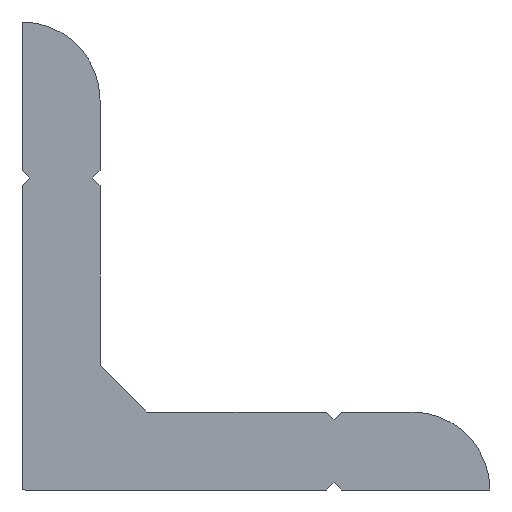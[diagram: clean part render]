
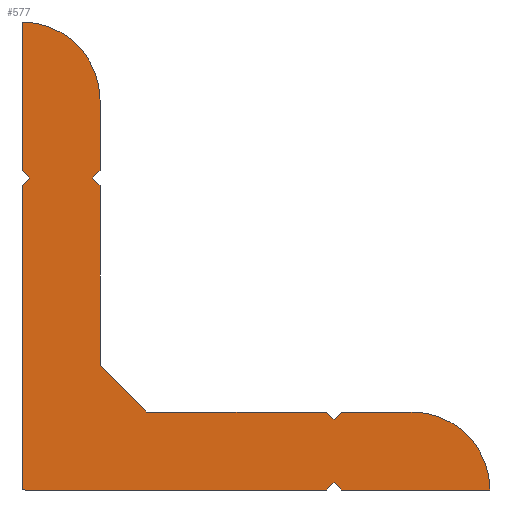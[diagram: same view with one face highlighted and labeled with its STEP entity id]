
A CAD part, front view. The second image highlights one B-rep face of the part: STEP entity #577.
In plain terms, the highlighted planar face has unit normal (0, -1, 0).
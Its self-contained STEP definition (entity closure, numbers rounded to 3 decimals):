
#27=CIRCLE('',#608,0.2);
#28=CIRCLE('',#609,5.);
#29=CIRCLE('',#610,5.);
#50=ORIENTED_EDGE('',*,*,#170,.F.);
#51=ORIENTED_EDGE('',*,*,#171,.T.);
#52=ORIENTED_EDGE('',*,*,#172,.F.);
#53=ORIENTED_EDGE('',*,*,#173,.T.);
#54=ORIENTED_EDGE('',*,*,#174,.T.);
#55=ORIENTED_EDGE('',*,*,#175,.F.);
#56=ORIENTED_EDGE('',*,*,#176,.T.);
#57=ORIENTED_EDGE('',*,*,#177,.F.);
#58=ORIENTED_EDGE('',*,*,#178,.T.);
#59=ORIENTED_EDGE('',*,*,#179,.T.);
#60=ORIENTED_EDGE('',*,*,#180,.F.);
#61=ORIENTED_EDGE('',*,*,#181,.T.);
#62=ORIENTED_EDGE('',*,*,#182,.F.);
#63=ORIENTED_EDGE('',*,*,#183,.T.);
#64=ORIENTED_EDGE('',*,*,#184,.T.);
#65=ORIENTED_EDGE('',*,*,#185,.F.);
#66=ORIENTED_EDGE('',*,*,#186,.T.);
#67=ORIENTED_EDGE('',*,*,#187,.F.);
#68=ORIENTED_EDGE('',*,*,#188,.T.);
#69=ORIENTED_EDGE('',*,*,#189,.T.);
#170=EDGE_CURVE('',#230,#231,#267,.T.);
#171=EDGE_CURVE('',#230,#232,#27,.F.);
#172=EDGE_CURVE('',#233,#232,#268,.T.);
#173=EDGE_CURVE('',#233,#234,#269,.T.);
#174=EDGE_CURVE('',#234,#235,#270,.T.);
#175=EDGE_CURVE('',#236,#235,#271,.T.);
#176=EDGE_CURVE('',#236,#237,#28,.F.);
#177=EDGE_CURVE('',#238,#237,#272,.T.);
#178=EDGE_CURVE('',#238,#239,#273,.T.);
#179=EDGE_CURVE('',#239,#240,#274,.T.);
#180=EDGE_CURVE('',#241,#240,#275,.T.);
#181=EDGE_CURVE('',#241,#242,#276,.F.);
#182=EDGE_CURVE('',#243,#242,#277,.T.);
#183=EDGE_CURVE('',#243,#244,#278,.T.);
#184=EDGE_CURVE('',#244,#245,#279,.T.);
#185=EDGE_CURVE('',#246,#245,#280,.T.);
#186=EDGE_CURVE('',#246,#247,#29,.F.);
#187=EDGE_CURVE('',#248,#247,#281,.T.);
#188=EDGE_CURVE('',#248,#249,#282,.T.);
#189=EDGE_CURVE('',#249,#231,#283,.T.);
#230=VERTEX_POINT('',#787);
#231=VERTEX_POINT('',#788);
#232=VERTEX_POINT('',#790);
#233=VERTEX_POINT('',#792);
#234=VERTEX_POINT('',#794);
#235=VERTEX_POINT('',#796);
#236=VERTEX_POINT('',#798);
#237=VERTEX_POINT('',#800);
#238=VERTEX_POINT('',#802);
#239=VERTEX_POINT('',#804);
#240=VERTEX_POINT('',#806);
#241=VERTEX_POINT('',#808);
#242=VERTEX_POINT('',#810);
#243=VERTEX_POINT('',#812);
#244=VERTEX_POINT('',#814);
#245=VERTEX_POINT('',#816);
#246=VERTEX_POINT('',#818);
#247=VERTEX_POINT('',#820);
#248=VERTEX_POINT('',#822);
#249=VERTEX_POINT('',#824);
#267=LINE('',#786,#321);
#268=LINE('',#791,#322);
#269=LINE('',#793,#323);
#270=LINE('',#795,#324);
#271=LINE('',#797,#325);
#272=LINE('',#801,#326);
#273=LINE('',#803,#327);
#274=LINE('',#805,#328);
#275=LINE('',#807,#329);
#276=LINE('',#809,#330);
#277=LINE('',#811,#331);
#278=LINE('',#813,#332);
#279=LINE('',#815,#333);
#280=LINE('',#817,#334);
#281=LINE('',#821,#335);
#282=LINE('',#823,#336);
#283=LINE('',#825,#337);
#321=VECTOR('',#660,1000.);
#322=VECTOR('',#663,1000.);
#323=VECTOR('',#664,1000.);
#324=VECTOR('',#665,1000.);
#325=VECTOR('',#666,1000.);
#326=VECTOR('',#669,1000.);
#327=VECTOR('',#670,1000.);
#328=VECTOR('',#671,1000.);
#329=VECTOR('',#672,1000.);
#330=VECTOR('',#673,1000.);
#331=VECTOR('',#674,1000.);
#332=VECTOR('',#675,1000.);
#333=VECTOR('',#676,1000.);
#334=VECTOR('',#677,1000.);
#335=VECTOR('',#680,1000.);
#336=VECTOR('',#681,1000.);
#337=VECTOR('',#682,1000.);
#359=EDGE_LOOP('',(#50,#51,#52,#53,#54,#55,#56,#57,#58,#59,#60,#61,#62,
#63,#64,#65,#66,#67,#68,#69));
#381=FACE_BOUND('',#359,.T.);
#403=PLANE('',#607);
#577=ADVANCED_FACE('',(#381),#403,.F.);
#607=AXIS2_PLACEMENT_3D('',#785,#658,#659);
#608=AXIS2_PLACEMENT_3D('',#789,#661,#662);
#609=AXIS2_PLACEMENT_3D('',#799,#667,#668);
#610=AXIS2_PLACEMENT_3D('',#819,#678,#679);
#658=DIRECTION('',(0.,1.,0.));
#659=DIRECTION('',(0.,0.,1.));
#660=DIRECTION('',(0.,0.,1.));
#661=DIRECTION('',(0.,1.,0.));
#662=DIRECTION('',(0.,0.,1.));
#663=DIRECTION('',(-1.,0.,0.));
#664=DIRECTION('',(0.707,0.,0.707));
#665=DIRECTION('',(0.707,0.,-0.707));
#666=DIRECTION('',(-1.,0.,0.));
#667=DIRECTION('',(0.,1.,0.));
#668=DIRECTION('',(0.,0.,1.));
#669=DIRECTION('',(1.,0.,0.));
#670=DIRECTION('',(-0.707,0.,-0.707));
#671=DIRECTION('',(-0.707,0.,0.707));
#672=DIRECTION('',(1.,0.,0.));
#673=DIRECTION('',(0.707,0.,-0.707));
#674=DIRECTION('',(0.,0.,-1.));
#675=DIRECTION('',(-0.707,0.,0.707));
#676=DIRECTION('',(0.707,0.,0.707));
#677=DIRECTION('',(0.,0.,-1.));
#678=DIRECTION('',(0.,1.,0.));
#679=DIRECTION('',(0.,0.,1.));
#680=DIRECTION('',(0.,0.,1.));
#681=DIRECTION('',(0.707,0.,-0.707));
#682=DIRECTION('',(-0.707,0.,-0.707));
#785=CARTESIAN_POINT('',(0.,0.,0.));
#786=CARTESIAN_POINT('',(0.,0.,0.));
#787=CARTESIAN_POINT('',(0.,0.,0.2));
#788=CARTESIAN_POINT('',(0.,0.,19.5));
#789=CARTESIAN_POINT('',(0.2,0.,0.2));
#790=CARTESIAN_POINT('',(0.2,0.,0.));
#791=CARTESIAN_POINT('',(30.,0.,0.));
#792=CARTESIAN_POINT('',(19.5,0.,0.));
#793=CARTESIAN_POINT('',(19.5,0.,0.));
#794=CARTESIAN_POINT('',(20.,0.,0.5));
#795=CARTESIAN_POINT('',(20.,0.,0.5));
#796=CARTESIAN_POINT('',(20.5,0.,0.));
#797=CARTESIAN_POINT('',(30.,0.,0.));
#798=CARTESIAN_POINT('',(30.,0.,0.));
#799=CARTESIAN_POINT('',(25.,0.,0.));
#800=CARTESIAN_POINT('',(25.,0.,5.));
#801=CARTESIAN_POINT('',(5.,0.,5.));
#802=CARTESIAN_POINT('',(20.5,0.,5.));
#803=CARTESIAN_POINT('',(20.5,0.,5.));
#804=CARTESIAN_POINT('',(20.,0.,4.5));
#805=CARTESIAN_POINT('',(20.,0.,4.5));
#806=CARTESIAN_POINT('',(19.5,0.,5.));
#807=CARTESIAN_POINT('',(5.,0.,5.));
#808=CARTESIAN_POINT('',(8.,0.,5.));
#809=CARTESIAN_POINT('',(6.5,0.,6.5));
#810=CARTESIAN_POINT('',(5.,0.,8.));
#811=CARTESIAN_POINT('',(5.,0.,30.));
#812=CARTESIAN_POINT('',(5.,0.,19.5));
#813=CARTESIAN_POINT('',(5.,0.,19.5));
#814=CARTESIAN_POINT('',(4.5,0.,20.));
#815=CARTESIAN_POINT('',(4.5,0.,20.));
#816=CARTESIAN_POINT('',(5.,0.,20.5));
#817=CARTESIAN_POINT('',(5.,0.,30.));
#818=CARTESIAN_POINT('',(5.,0.,25.));
#819=CARTESIAN_POINT('',(0.,0.,25.));
#820=CARTESIAN_POINT('',(0.,0.,30.));
#821=CARTESIAN_POINT('',(0.,0.,0.));
#822=CARTESIAN_POINT('',(0.,0.,20.5));
#823=CARTESIAN_POINT('',(0.,0.,20.5));
#824=CARTESIAN_POINT('',(0.5,0.,20.));
#825=CARTESIAN_POINT('',(0.5,0.,20.));
